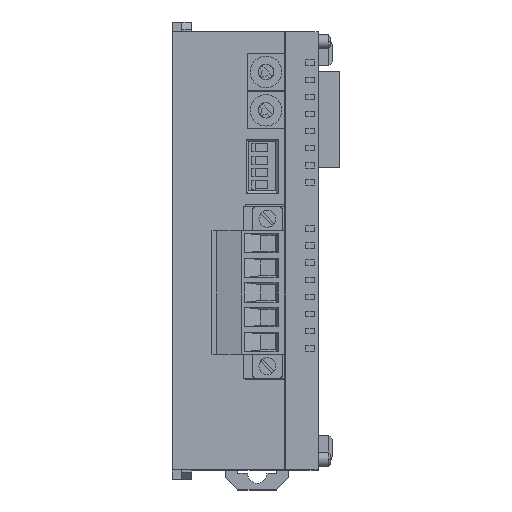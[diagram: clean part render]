
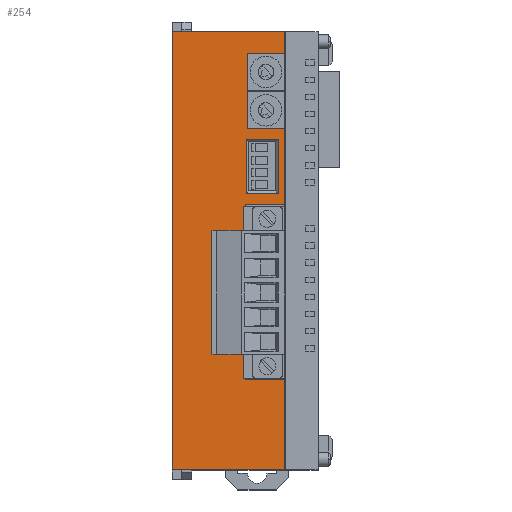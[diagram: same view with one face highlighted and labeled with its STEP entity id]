
A CAD part, top view. The second image highlights one B-rep face of the part: STEP entity #254.
In plain terms, the highlighted planar face has unit normal (0, 0, 1).
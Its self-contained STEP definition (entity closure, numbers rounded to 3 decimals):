
#141 = EDGE_CURVE ( 'NONE', #145, #321, #11397, .T. ) ;
#145 = VERTEX_POINT ( 'NONE', #11389 ) ;
#152 = ORIENTED_EDGE ( 'NONE', *, *, #141, .F. ) ;
#210 = VERTEX_POINT ( 'NONE', #11581 ) ;
#214 = ORIENTED_EDGE ( 'NONE', *, *, #215, .F. ) ;
#215 = EDGE_CURVE ( 'NONE', #321, #210, #11579, .T. ) ;
#216 = ORIENTED_EDGE ( 'NONE', *, *, #244, .F. ) ;
#236 = EDGE_LOOP ( 'NONE', ( #216, #214, #152, #419, #384, #458, #298, #302, #293, #477, #486, #485 ) ) ;
#244 = EDGE_CURVE ( 'NONE', #210, #8220, #11677, .T. ) ;
#254 = ADVANCED_FACE ( 'NONE', ( #11721, #11720 ), #11705, .T. ) ;
#293 = ORIENTED_EDGE ( 'NONE', *, *, #10012, .T. ) ;
#298 = ORIENTED_EDGE ( 'NONE', *, *, #299, .F. ) ;
#299 = EDGE_CURVE ( 'NONE', #8305, #332, #11901, .T. ) ;
#302 = ORIENTED_EDGE ( 'NONE', *, *, #8293, .F. ) ;
#321 = VERTEX_POINT ( 'NONE', #11924 ) ;
#332 = VERTEX_POINT ( 'NONE', #11947 ) ;
#384 = ORIENTED_EDGE ( 'NONE', *, *, #462, .F. ) ;
#387 = VERTEX_POINT ( 'NONE', #12133 ) ;
#408 = VERTEX_POINT ( 'NONE', #12148 ) ;
#411 = EDGE_CURVE ( 'NONE', #387, #145, #12147, .T. ) ;
#414 = ORIENTED_EDGE ( 'NONE', *, *, #424, .T. ) ;
#418 = VERTEX_POINT ( 'NONE', #12196 ) ;
#419 = ORIENTED_EDGE ( 'NONE', *, *, #411, .F. ) ;
#424 = EDGE_CURVE ( 'NONE', #408, #418, #12189, .T. ) ;
#441 = ORIENTED_EDGE ( 'NONE', *, *, #443, .T. ) ;
#443 = EDGE_CURVE ( 'NONE', #444, #408, #12248, .T. ) ;
#444 = VERTEX_POINT ( 'NONE', #12244 ) ;
#454 = VERTEX_POINT ( 'NONE', #12308 ) ;
#457 = VERTEX_POINT ( 'NONE', #12303 ) ;
#458 = ORIENTED_EDGE ( 'NONE', *, *, #459, .F. ) ;
#459 = EDGE_CURVE ( 'NONE', #332, #457, #12302, .T. ) ;
#462 = EDGE_CURVE ( 'NONE', #457, #387, #12293, .T. ) ;
#468 = EDGE_CURVE ( 'NONE', #454, #444, #12326, .T. ) ;
#472 = EDGE_LOOP ( 'NONE', ( #474, #441, #414, #502 ) ) ;
#474 = ORIENTED_EDGE ( 'NONE', *, *, #468, .T. ) ;
#477 = ORIENTED_EDGE ( 'NONE', *, *, #10376, .T. ) ;
#485 = ORIENTED_EDGE ( 'NONE', *, *, #8231, .F. ) ;
#486 = ORIENTED_EDGE ( 'NONE', *, *, #8896, .T. ) ;
#502 = ORIENTED_EDGE ( 'NONE', *, *, #531, .T. ) ;
#531 = EDGE_CURVE ( 'NONE', #418, #454, #12468, .T. ) ;
#8220 = VERTEX_POINT ( 'NONE', #35984 ) ;
#8231 = EDGE_CURVE ( 'NONE', #8220, #8232, #35965, .T. ) ;
#8232 = VERTEX_POINT ( 'NONE', #35961 ) ;
#8293 = EDGE_CURVE ( 'NONE', #8297, #8305, #36092, .T. ) ;
#8297 = VERTEX_POINT ( 'NONE', #36141 ) ;
#8305 = VERTEX_POINT ( 'NONE', #36165 ) ;
#8896 = EDGE_CURVE ( 'NONE', #8897, #8232, #37299, .T. ) ;
#8897 = VERTEX_POINT ( 'NONE', #37295 ) ;
#10010 = VERTEX_POINT ( 'NONE', #40010 ) ;
#10012 = EDGE_CURVE ( 'NONE', #8297, #10010, #40009, .T. ) ;
#10376 = EDGE_CURVE ( 'NONE', #10010, #8897, #41076, .T. ) ;
#11389 = CARTESIAN_POINT ( 'NONE',  ( 8.2, 9.45, 60. ) ) ;
#11390 = DIRECTION ( 'NONE',  ( -1., 0., 0. ) ) ;
#11391 = VECTOR ( 'NONE', #11390, 1000. ) ;
#11392 = CARTESIAN_POINT ( 'NONE',  ( 8.2, 9.45, 60. ) ) ;
#11397 = LINE ( 'NONE', #11392, #11391 ) ;
#11576 = DIRECTION ( 'NONE',  ( 0., -1., 0. ) ) ;
#11577 = VECTOR ( 'NONE', #11576, 1000. ) ;
#11578 = CARTESIAN_POINT ( 'NONE',  ( 0.1, 9.45, 60. ) ) ;
#11579 = LINE ( 'NONE', #11578, #11577 ) ;
#11581 = CARTESIAN_POINT ( 'NONE',  ( 0.1, -26.45, 60. ) ) ;
#11676 = CARTESIAN_POINT ( 'NONE',  ( 8.2, -26.45, 60. ) ) ;
#11677 = LINE ( 'NONE', #11676, #11733 ) ;
#11704 = CARTESIAN_POINT ( 'NONE',  ( -15., -45., 60. ) ) ;
#11705 = PLANE ( 'NONE',  #11761 ) ;
#11720 = FACE_BOUND ( 'NONE', #472, .T. ) ;
#11721 = FACE_OUTER_BOUND ( 'NONE', #236, .T. ) ;
#11732 = DIRECTION ( 'NONE',  ( 1., 0., 0. ) ) ;
#11733 = VECTOR ( 'NONE', #11732, 1000. ) ;
#11759 = DIRECTION ( 'NONE',  ( 1., 0., 0. ) ) ;
#11760 = DIRECTION ( 'NONE',  ( 0., 0., 1. ) ) ;
#11761 = AXIS2_PLACEMENT_3D ( 'NONE', #11704, #11760, #11759 ) ;
#11898 = DIRECTION ( 'NONE',  ( -1., 0., 0. ) ) ;
#11899 = VECTOR ( 'NONE', #11898, 1000. ) ;
#11900 = CARTESIAN_POINT ( 'NONE',  ( 8.2, 40.5, 60. ) ) ;
#11901 = LINE ( 'NONE', #11900, #11899 ) ;
#11924 = CARTESIAN_POINT ( 'NONE',  ( 0.1, 9.45, 60. ) ) ;
#11947 = CARTESIAN_POINT ( 'NONE',  ( 0.5, 40.5, 60. ) ) ;
#12133 = CARTESIAN_POINT ( 'NONE',  ( 8.2, 25., 60. ) ) ;
#12144 = DIRECTION ( 'NONE',  ( 0., -1., 0. ) ) ;
#12145 = VECTOR ( 'NONE', #12144, 1000. ) ;
#12146 = CARTESIAN_POINT ( 'NONE',  ( 8.2, 45., 60. ) ) ;
#12147 = LINE ( 'NONE', #12146, #12145 ) ;
#12148 = CARTESIAN_POINT ( 'NONE',  ( 0.2, 11.75, 60. ) ) ;
#12186 = DIRECTION ( 'NONE',  ( 0., 1., 0. ) ) ;
#12187 = VECTOR ( 'NONE', #12186, 1000. ) ;
#12188 = CARTESIAN_POINT ( 'NONE',  ( 0.2, 22.35, 60. ) ) ;
#12189 = LINE ( 'NONE', #12188, #12187 ) ;
#12196 = CARTESIAN_POINT ( 'NONE',  ( 0.2, 22.85, 60. ) ) ;
#12244 = CARTESIAN_POINT ( 'NONE',  ( 6.8, 11.75, 60. ) ) ;
#12245 = DIRECTION ( 'NONE',  ( -1., 0., 0. ) ) ;
#12246 = VECTOR ( 'NONE', #12245, 1000. ) ;
#12247 = CARTESIAN_POINT ( 'NONE',  ( 0.7, 11.75, 60. ) ) ;
#12248 = LINE ( 'NONE', #12247, #12246 ) ;
#12290 = DIRECTION ( 'NONE',  ( 1., 0., 0. ) ) ;
#12291 = VECTOR ( 'NONE', #12290, 1000. ) ;
#12292 = CARTESIAN_POINT ( 'NONE',  ( 8.2, 25., 60. ) ) ;
#12293 = LINE ( 'NONE', #12292, #12291 ) ;
#12299 = DIRECTION ( 'NONE',  ( 0., -1., 0. ) ) ;
#12300 = VECTOR ( 'NONE', #12299, 1000. ) ;
#12301 = CARTESIAN_POINT ( 'NONE',  ( 0.5, 40.5, 60. ) ) ;
#12302 = LINE ( 'NONE', #12301, #12300 ) ;
#12303 = CARTESIAN_POINT ( 'NONE',  ( 0.5, 25., 60. ) ) ;
#12308 = CARTESIAN_POINT ( 'NONE',  ( 6.8, 22.85, 60. ) ) ;
#12319 = VECTOR ( 'NONE', #12373, 1000. ) ;
#12320 = CARTESIAN_POINT ( 'NONE',  ( 6.8, 12.25, 60. ) ) ;
#12326 = LINE ( 'NONE', #12320, #12319 ) ;
#12373 = DIRECTION ( 'NONE',  ( 0., -1., 0. ) ) ;
#12465 = DIRECTION ( 'NONE',  ( 1., 0., 0. ) ) ;
#12466 = VECTOR ( 'NONE', #12465, 1000. ) ;
#12467 = CARTESIAN_POINT ( 'NONE',  ( 6.3, 22.85, 60. ) ) ;
#12468 = LINE ( 'NONE', #12467, #12466 ) ;
#35961 = CARTESIAN_POINT ( 'NONE',  ( 8.2, -45., 60. ) ) ;
#35962 = DIRECTION ( 'NONE',  ( 0., -1., 0. ) ) ;
#35963 = VECTOR ( 'NONE', #35962, 1000. ) ;
#35964 = CARTESIAN_POINT ( 'NONE',  ( 8.2, 45., 60. ) ) ;
#35965 = LINE ( 'NONE', #35964, #35963 ) ;
#35984 = CARTESIAN_POINT ( 'NONE',  ( 8.2, -26.45, 60. ) ) ;
#36092 = LINE ( 'NONE', #36153, #36152 ) ;
#36141 = CARTESIAN_POINT ( 'NONE',  ( 8.2, 45., 60. ) ) ;
#36151 = DIRECTION ( 'NONE',  ( 0., -1., 0. ) ) ;
#36152 = VECTOR ( 'NONE', #36151, 1000. ) ;
#36153 = CARTESIAN_POINT ( 'NONE',  ( 8.2, 45., 60. ) ) ;
#36165 = CARTESIAN_POINT ( 'NONE',  ( 8.2, 40.5, 60. ) ) ;
#37295 = CARTESIAN_POINT ( 'NONE',  ( -15., -45., 60. ) ) ;
#37296 = DIRECTION ( 'NONE',  ( 1., 0., 0. ) ) ;
#37297 = VECTOR ( 'NONE', #37296, 1000. ) ;
#37298 = CARTESIAN_POINT ( 'NONE',  ( -15., -45., 60. ) ) ;
#37299 = LINE ( 'NONE', #37298, #37297 ) ;
#40006 = DIRECTION ( 'NONE',  ( -1., 0., 0. ) ) ;
#40007 = VECTOR ( 'NONE', #40006, 1000. ) ;
#40008 = CARTESIAN_POINT ( 'NONE',  ( -15., 45., 60. ) ) ;
#40009 = LINE ( 'NONE', #40008, #40007 ) ;
#40010 = CARTESIAN_POINT ( 'NONE',  ( -15., 45., 60. ) ) ;
#41073 = DIRECTION ( 'NONE',  ( 0., -1., 0. ) ) ;
#41074 = VECTOR ( 'NONE', #41073, 1000. ) ;
#41075 = CARTESIAN_POINT ( 'NONE',  ( -15., 45., 60. ) ) ;
#41076 = LINE ( 'NONE', #41075, #41074 ) ;
